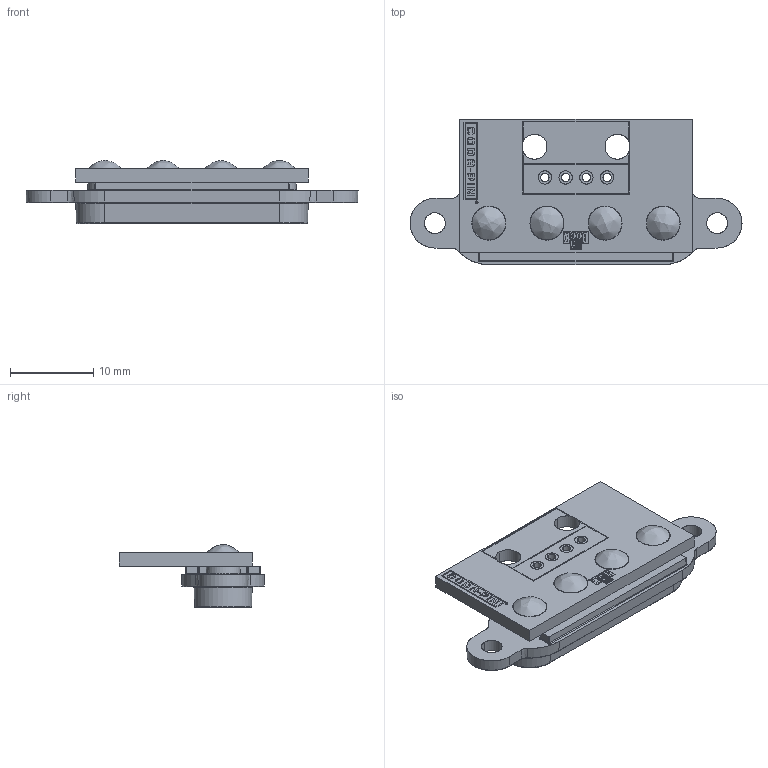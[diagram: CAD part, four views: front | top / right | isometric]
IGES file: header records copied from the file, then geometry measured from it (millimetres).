
Start section: SolidWorks IGES file using analytic representation for surfaces
Global section: file name: F:\OneDrive\Desktop\Coda\28.7\Swift-Dock add 3D\Swift-Dock add 3D\Swift-DOCK Ranges Completed\SD\Swift-Dock-4P-L.IGS; native system: SolidWorks 2021; preprocessor: SolidWorks 2021; author: Georg; date: 210806.160011; units: millimetre
Bounding box: 40 x 17.5 x 7.61 mm (x, y, z)
Surface area: 2744.8 mm2 (no closed solid volume)
Topology: 0 solids, 0 shells, 685 faces, 7160 edges, 7152 vertices
Faces by surface type: bspline 406, revolution 279
